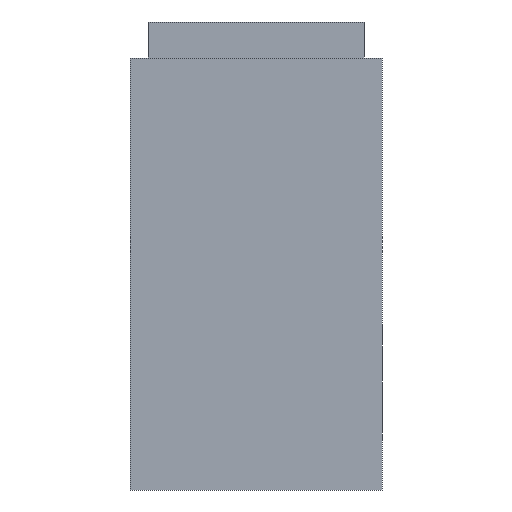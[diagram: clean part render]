
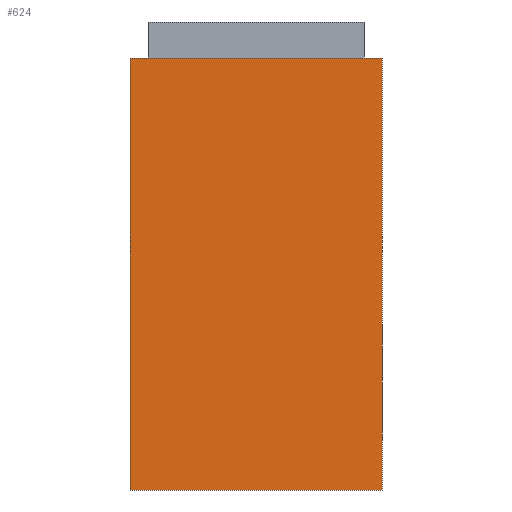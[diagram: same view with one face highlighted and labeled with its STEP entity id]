
A CAD part, left-side view. The second image highlights one B-rep face of the part: STEP entity #624.
In plain terms, the highlighted planar face has unit normal (-1, 0, 0).
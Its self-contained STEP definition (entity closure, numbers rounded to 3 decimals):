
#1 = VECTOR ( 'NONE', #7, 1000. ) ;
#2 = CARTESIAN_POINT ( 'NONE',  ( 0., 7.3, 3.5 ) ) ;
#3 = LINE ( 'NONE', #2, #1 ) ;
#5 = CARTESIAN_POINT ( 'NONE',  ( 0., 7.3, -3.5 ) ) ;
#6 = CARTESIAN_POINT ( 'NONE',  ( 0., 7.3, 3.5 ) ) ;
#7 = DIRECTION ( 'NONE',  ( 0., 0., -1. ) ) ;
#10 = LINE ( 'NONE', #34, #33 ) ;
#32 = DIRECTION ( 'NONE',  ( 0., 0., -1. ) ) ;
#33 = VECTOR ( 'NONE', #32, 1000. ) ;
#34 = CARTESIAN_POINT ( 'NONE',  ( 0., -4.7, 3.5 ) ) ;
#64 = PLANE ( 'NONE',  #133 ) ;
#65 = FACE_OUTER_BOUND ( 'NONE', #466, .T. ) ;
#66 = CARTESIAN_POINT ( 'NONE',  ( 0., -4.7, -3.5 ) ) ;
#119 = DIRECTION ( 'NONE',  ( 0., -1., 0. ) ) ;
#120 = VECTOR ( 'NONE', #119, 1000. ) ;
#121 = CARTESIAN_POINT ( 'NONE',  ( 0., 7.3, -3.5 ) ) ;
#122 = LINE ( 'NONE', #121, #120 ) ;
#130 = DIRECTION ( 'NONE',  ( 0., 1., 0. ) ) ;
#131 = DIRECTION ( 'NONE',  ( 1., 0., 0. ) ) ;
#132 = CARTESIAN_POINT ( 'NONE',  ( 0., 7.3, 3.5 ) ) ;
#133 = AXIS2_PLACEMENT_3D ( 'NONE', #132, #131, #130 ) ;
#168 = CARTESIAN_POINT ( 'NONE',  ( 0., -4.7, 3.5 ) ) ;
#466 = EDGE_LOOP ( 'NONE', ( #625, #657, #476, #477 ) ) ;
#476 = ORIENTED_EDGE ( 'NONE', *, *, #583, .F. ) ;
#477 = ORIENTED_EDGE ( 'NONE', *, *, #478, .F. ) ;
#478 = EDGE_CURVE ( 'NONE', #574, #610, #829, .T. ) ;
#573 = EDGE_CURVE ( 'NONE', #574, #575, #3, .T. ) ;
#574 = VERTEX_POINT ( 'NONE', #6 ) ;
#575 = VERTEX_POINT ( 'NONE', #5 ) ;
#583 = EDGE_CURVE ( 'NONE', #610, #623, #10, .T. ) ;
#610 = VERTEX_POINT ( 'NONE', #168 ) ;
#623 = VERTEX_POINT ( 'NONE', #66 ) ;
#624 = ADVANCED_FACE ( 'NONE', ( #65 ), #64, .F. ) ;
#625 = ORIENTED_EDGE ( 'NONE', *, *, #573, .T. ) ;
#657 = ORIENTED_EDGE ( 'NONE', *, *, #658, .T. ) ;
#658 = EDGE_CURVE ( 'NONE', #575, #623, #122, .T. ) ;
#822 = DIRECTION ( 'NONE',  ( 0., -1., 0. ) ) ;
#823 = VECTOR ( 'NONE', #822, 1000. ) ;
#824 = CARTESIAN_POINT ( 'NONE',  ( 0., 7.3, 3.5 ) ) ;
#829 = LINE ( 'NONE', #824, #823 ) ;
